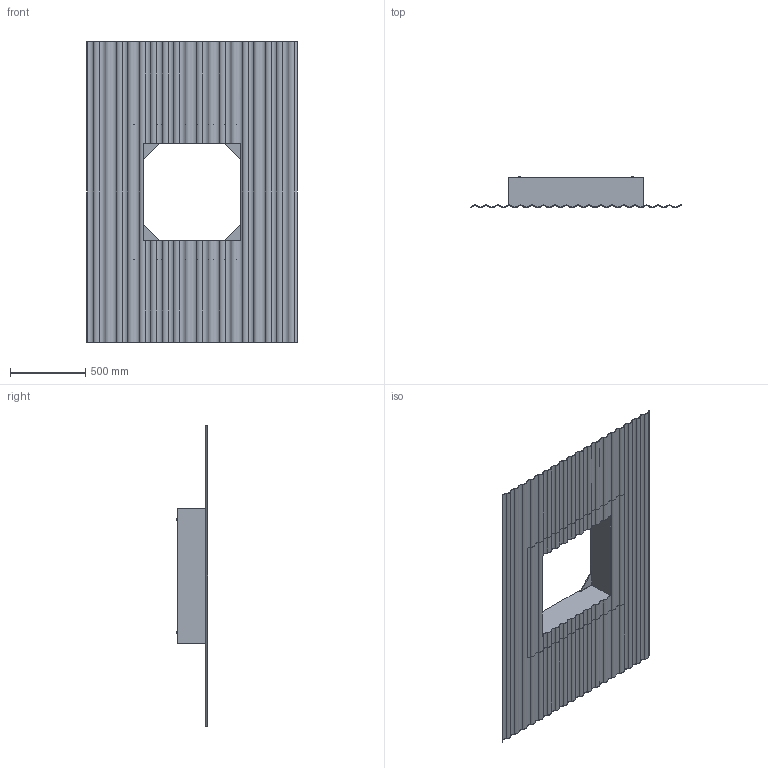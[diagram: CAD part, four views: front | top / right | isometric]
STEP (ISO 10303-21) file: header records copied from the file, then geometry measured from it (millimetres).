
FILE_DESCRIPTION(/* description */ (''),/* implementation_level */ '2;1');
FILE_NAME(/* name */ 'Z:\Output\WDS_500-560-630-01564-001.stp',/* time_stamp */ '2017-11-10T11:51:42+01:00',/* author */ ('engineering1'),/* organization */ (''),/* preprocessor_version */ 'ST-DEVELOPER v16.5',/* originating_system */ 'Autodesk Inventor 2017',/* authorisation */ '');
FILE_SCHEMA (('AUTOMOTIVE_DESIGN { 1 0 10303 214 3 1 1 }'));
Length unit declared in the file: millimetre
Products named in the file (1): WDS
Bounding box: 1401.9 x 210 x 2000 mm (x, y, z)
Volume: 77552368.1 mm3; surface area: 6448557.3 mm2
Topology: 1 solids, 1 shells, 145 faces, 420 edges, 280 vertices
Faces by surface type: cylinder 116, plane 29
Full cylindrical faces by diameter (mm): 12 x4
Entity records: 4928 total; most frequent: DIRECTION 948, CARTESIAN_POINT 842, ORIENTED_EDGE 832, EDGE_CURVE 416, AXIS2_PLACEMENT_3D 386, VERTEX_POINT 280, CIRCLE 240, LINE 176
